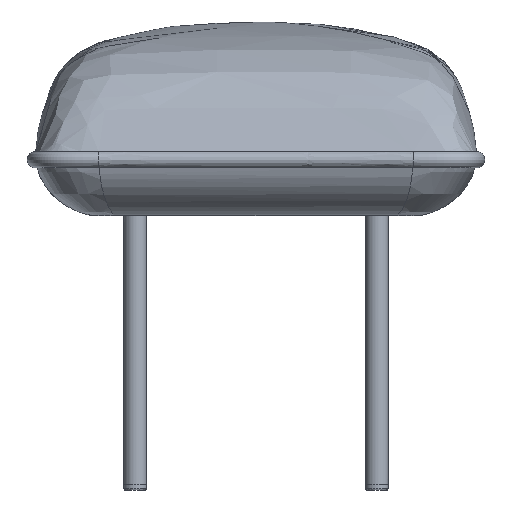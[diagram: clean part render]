
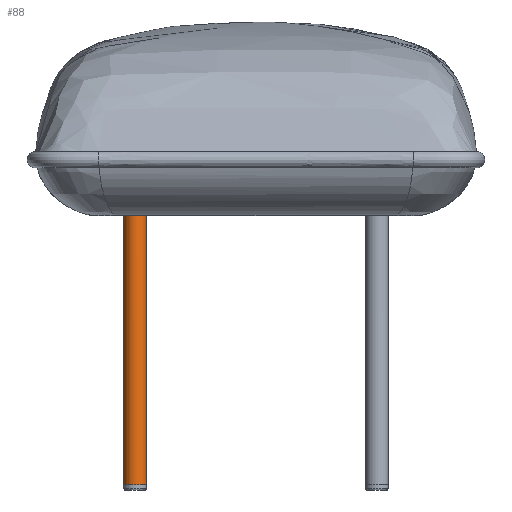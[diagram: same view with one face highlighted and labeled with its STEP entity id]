
A CAD part, left-side view. The second image highlights one B-rep face of the part: STEP entity #88.
In plain terms, the highlighted free-form (B-spline) face has degree [1, 2] with [2, 5] control points.
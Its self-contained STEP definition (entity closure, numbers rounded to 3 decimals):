
#88=ADVANCED_FACE('',(#162),#1970,.T.);
#162=FACE_OUTER_BOUND('',#236,.T.);
#236=EDGE_LOOP('',(#373,#374,#375,#376));
#373=ORIENTED_EDGE('',*,*,#1628,.F.);
#374=ORIENTED_EDGE('',*,*,#1623,.F.);
#375=ORIENTED_EDGE('',*,*,#1627,.F.);
#376=ORIENTED_EDGE('',*,*,#1626,.F.);
#634=B_SPLINE_CURVE_WITH_KNOTS('',1,(#2781,#2782),.UNSPECIFIED.,.F.,.F.,
(2,2),(57.,322.),.UNSPECIFIED.);
#636=B_SPLINE_CURVE_WITH_KNOTS('',1,(#2787,#2788),.UNSPECIFIED.,.F.,.F.,
(2,2),(-322.,-57.),.UNSPECIFIED.);
#637=B_SPLINE_CURVE_WITH_KNOTS('',1,(#2789,#2790),.UNSPECIFIED.,.F.,.F.,
(2,2),(-322.,-57.),.UNSPECIFIED.);
#638=B_SPLINE_CURVE_WITH_KNOTS('',1,(#2791,#2792),.UNSPECIFIED.,.F.,.F.,
(2,2),(-69.115,-34.558),.UNSPECIFIED.);
#639=B_SPLINE_CURVE_WITH_KNOTS('',1,(#2793,#2794),.UNSPECIFIED.,.F.,.F.,
(2,2),(57.,322.),.UNSPECIFIED.);
#640=B_SPLINE_CURVE_WITH_KNOTS('',1,(#2795,#2796),.UNSPECIFIED.,.F.,.F.,
(2,2),(34.558,69.115),.UNSPECIFIED.);
#945=PCURVE('',#2011,#1233);
#948=PCURVE('',#2012,#1236);
#950=PCURVE('',#1969,#1238);
#952=PCURVE('',#1969,#1240);
#953=PCURVE('',#1970,#1241);
#954=PCURVE('',#1970,#1242);
#955=PCURVE('',#1970,#1243);
#956=PCURVE('',#1970,#1244);
#1233=DEFINITIONAL_REPRESENTATION('',(#1788),#12418);
#1236=DEFINITIONAL_REPRESENTATION('',(#1794),#12418);
#1238=DEFINITIONAL_REPRESENTATION('',(#634),#12418);
#1240=DEFINITIONAL_REPRESENTATION('',(#636),#12418);
#1241=DEFINITIONAL_REPRESENTATION('',(#637),#12418);
#1242=DEFINITIONAL_REPRESENTATION('',(#638),#12418);
#1243=DEFINITIONAL_REPRESENTATION('',(#639),#12418);
#1244=DEFINITIONAL_REPRESENTATION('',(#640),#12418);
#1479=SURFACE_CURVE('',#1787,(#945,#954),.PCURVE_S1.);
#1482=SURFACE_CURVE('',#1793,(#948,#956),.PCURVE_S1.);
#1483=SURFACE_CURVE('',#1795,(#950,#955),.PCURVE_S1.);
#1484=SURFACE_CURVE('',#1796,(#952,#953),.PCURVE_S1.);
#1623=EDGE_CURVE('',#1891,#1894,#1479,.T.);
#1626=EDGE_CURVE('',#1893,#1892,#1482,.T.);
#1627=EDGE_CURVE('',#1892,#1891,#1483,.T.);
#1628=EDGE_CURVE('',#1894,#1893,#1484,.T.);
#1787=(
BOUNDED_CURVE()
B_SPLINE_CURVE(2,(#2737,#2738,#2739,#2740,#2741),.UNSPECIFIED.,.F.,.F.)
B_SPLINE_CURVE_WITH_KNOTS((3,2,3),(-69.115,-51.836,
-34.558),.UNSPECIFIED.)
CURVE()
GEOMETRIC_REPRESENTATION_ITEM()
RATIONAL_B_SPLINE_CURVE((1.,0.707,1.,0.707,1.))
REPRESENTATION_ITEM('')
);
#1788=(
BOUNDED_CURVE()
B_SPLINE_CURVE(2,(#2742,#2743,#2744,#2745,#2746),.UNSPECIFIED.,.F.,.F.)
B_SPLINE_CURVE_WITH_KNOTS((3,2,3),(-69.115,-51.836,
-34.558),.UNSPECIFIED.)
CURVE()
GEOMETRIC_REPRESENTATION_ITEM()
RATIONAL_B_SPLINE_CURVE((1.,0.707,1.,0.707,1.))
REPRESENTATION_ITEM('')
);
#1793=(
BOUNDED_CURVE()
B_SPLINE_CURVE(2,(#2767,#2768,#2769,#2770,#2771),.UNSPECIFIED.,.F.,.F.)
B_SPLINE_CURVE_WITH_KNOTS((3,2,3),(34.558,51.836,69.115),
 .UNSPECIFIED.)
CURVE()
GEOMETRIC_REPRESENTATION_ITEM()
RATIONAL_B_SPLINE_CURVE((1.,0.707,1.,0.707,1.))
REPRESENTATION_ITEM('')
);
#1794=(
BOUNDED_CURVE()
B_SPLINE_CURVE(2,(#2772,#2773,#2774,#2775,#2776),.UNSPECIFIED.,.F.,.F.)
B_SPLINE_CURVE_WITH_KNOTS((3,2,3),(34.558,51.836,69.115),
 .UNSPECIFIED.)
CURVE()
GEOMETRIC_REPRESENTATION_ITEM()
RATIONAL_B_SPLINE_CURVE((1.,0.707,1.,0.707,1.))
REPRESENTATION_ITEM('')
);
#1795=(
BOUNDED_CURVE()
B_SPLINE_CURVE(1,(#2779,#2780),.UNSPECIFIED.,.F.,.F.)
B_SPLINE_CURVE_WITH_KNOTS((2,2),(57.,322.),.UNSPECIFIED.)
CURVE()
GEOMETRIC_REPRESENTATION_ITEM()
RATIONAL_B_SPLINE_CURVE((1.,1.))
REPRESENTATION_ITEM('')
);
#1796=(
BOUNDED_CURVE()
B_SPLINE_CURVE(1,(#2785,#2786),.UNSPECIFIED.,.F.,.F.)
B_SPLINE_CURVE_WITH_KNOTS((2,2),(-322.,-57.),.UNSPECIFIED.)
CURVE()
GEOMETRIC_REPRESENTATION_ITEM()
RATIONAL_B_SPLINE_CURVE((1.,1.))
REPRESENTATION_ITEM('')
);
#1891=VERTEX_POINT('',#2733);
#1892=VERTEX_POINT('',#2734);
#1893=VERTEX_POINT('',#2735);
#1894=VERTEX_POINT('',#2736);
#1969=(
BOUNDED_SURFACE()
B_SPLINE_SURFACE(1,2,((#2713,#2714,#2715,#2716,#2717),(#2718,#2719,#2720,
#2721,#2722)),.UNSPECIFIED.,.F.,.F.,.F.)
B_SPLINE_SURFACE_WITH_KNOTS((2,2),(3,2,3),(0.,327.),(0.,17.279,
34.558),.UNSPECIFIED.)
GEOMETRIC_REPRESENTATION_ITEM()
RATIONAL_B_SPLINE_SURFACE(((1.,0.707,1.,0.707,1.),
(1.,0.707,1.,0.707,1.)))
REPRESENTATION_ITEM('')
SURFACE()
);
#1970=(
BOUNDED_SURFACE()
B_SPLINE_SURFACE(1,2,((#2723,#2724,#2725,#2726,#2727),(#2728,#2729,#2730,
#2731,#2732)),.UNSPECIFIED.,.F.,.F.,.F.)
B_SPLINE_SURFACE_WITH_KNOTS((2,2),(3,2,3),(0.,327.),(34.558,51.836,
69.115),.UNSPECIFIED.)
GEOMETRIC_REPRESENTATION_ITEM()
RATIONAL_B_SPLINE_SURFACE(((1.,0.707,1.,0.707,1.),
(1.,0.707,1.,0.707,1.)))
REPRESENTATION_ITEM('')
SURFACE()
);
#2011=B_SPLINE_SURFACE_WITH_KNOTS('',1,1,((#2705,#2706),(#2707,#2708)),
 .UNSPECIFIED.,.F.,.F.,.F.,(2,2),(2,2),(-0.22,22.22),(-11.22,
11.22),.UNSPECIFIED.);
#2012=B_SPLINE_SURFACE_WITH_KNOTS('',1,1,((#2709,#2710),(#2711,#2712)),
 .UNSPECIFIED.,.F.,.F.,.F.,(2,2),(2,2),(-22.22,0.22),(-11.22,
11.22),.UNSPECIFIED.);
#2705=CARTESIAN_POINT('',(-505.22,107.78,5.));
#2706=CARTESIAN_POINT('',(-482.78,107.78,5.));
#2707=CARTESIAN_POINT('',(-505.22,130.22,5.));
#2708=CARTESIAN_POINT('',(-482.78,130.22,5.));
#2709=CARTESIAN_POINT('',(-505.22,130.22,270.));
#2710=CARTESIAN_POINT('',(-482.78,130.22,270.));
#2711=CARTESIAN_POINT('',(-505.22,107.78,270.));
#2712=CARTESIAN_POINT('',(-482.78,107.78,270.));
#2713=CARTESIAN_POINT('',(-494.,108.,327.));
#2714=CARTESIAN_POINT('',(-483.,108.,327.));
#2715=CARTESIAN_POINT('',(-483.,119.,327.));
#2716=CARTESIAN_POINT('',(-483.,130.,327.));
#2717=CARTESIAN_POINT('',(-494.,130.,327.));
#2718=CARTESIAN_POINT('',(-494.,108.,0.));
#2719=CARTESIAN_POINT('',(-483.,108.,0.));
#2720=CARTESIAN_POINT('',(-483.,119.,0.));
#2721=CARTESIAN_POINT('',(-483.,130.,0.));
#2722=CARTESIAN_POINT('',(-494.,130.,0.));
#2723=CARTESIAN_POINT('',(-494.,130.,327.));
#2724=CARTESIAN_POINT('',(-505.,130.,327.));
#2725=CARTESIAN_POINT('',(-505.,119.,327.));
#2726=CARTESIAN_POINT('',(-505.,108.,327.));
#2727=CARTESIAN_POINT('',(-494.,108.,327.));
#2728=CARTESIAN_POINT('',(-494.,130.,0.));
#2729=CARTESIAN_POINT('',(-505.,130.,0.));
#2730=CARTESIAN_POINT('',(-505.,119.,0.));
#2731=CARTESIAN_POINT('',(-505.,108.,0.));
#2732=CARTESIAN_POINT('',(-494.,108.,0.));
#2733=CARTESIAN_POINT('',(-494.,108.,5.));
#2734=CARTESIAN_POINT('',(-494.,108.,270.));
#2735=CARTESIAN_POINT('',(-494.,130.,270.));
#2736=CARTESIAN_POINT('',(-494.,130.,5.));
#2737=CARTESIAN_POINT('',(-494.,108.,5.));
#2738=CARTESIAN_POINT('',(-505.,108.,5.));
#2739=CARTESIAN_POINT('',(-505.,119.,5.));
#2740=CARTESIAN_POINT('',(-505.,130.,5.));
#2741=CARTESIAN_POINT('',(-494.,130.,5.));
#2742=CARTESIAN_POINT('',(0.,0.));
#2743=CARTESIAN_POINT('',(0.,-11.));
#2744=CARTESIAN_POINT('',(11.,-11.));
#2745=CARTESIAN_POINT('',(22.,-11.));
#2746=CARTESIAN_POINT('',(22.,0.));
#2767=CARTESIAN_POINT('',(-494.,130.,270.));
#2768=CARTESIAN_POINT('',(-505.,130.,270.));
#2769=CARTESIAN_POINT('',(-505.,119.,270.));
#2770=CARTESIAN_POINT('',(-505.,108.,270.));
#2771=CARTESIAN_POINT('',(-494.,108.,270.));
#2772=CARTESIAN_POINT('',(-22.,0.));
#2773=CARTESIAN_POINT('',(-22.,-11.));
#2774=CARTESIAN_POINT('',(-11.,-11.));
#2775=CARTESIAN_POINT('',(0.,-11.));
#2776=CARTESIAN_POINT('',(0.,0.));
#2779=CARTESIAN_POINT('',(-494.,108.,270.));
#2780=CARTESIAN_POINT('',(-494.,108.,5.));
#2781=CARTESIAN_POINT('',(57.,0.));
#2782=CARTESIAN_POINT('',(322.,0.));
#2785=CARTESIAN_POINT('',(-494.,130.,5.));
#2786=CARTESIAN_POINT('',(-494.,130.,270.));
#2787=CARTESIAN_POINT('',(322.,34.558));
#2788=CARTESIAN_POINT('',(57.,34.558));
#2789=CARTESIAN_POINT('',(322.,34.558));
#2790=CARTESIAN_POINT('',(57.,34.558));
#2791=CARTESIAN_POINT('',(322.,69.115));
#2792=CARTESIAN_POINT('',(322.,34.558));
#2793=CARTESIAN_POINT('',(57.,69.115));
#2794=CARTESIAN_POINT('',(322.,69.115));
#2795=CARTESIAN_POINT('',(57.,34.558));
#2796=CARTESIAN_POINT('',(57.,69.115));
#12418=(
GEOMETRIC_REPRESENTATION_CONTEXT(2)
PARAMETRIC_REPRESENTATION_CONTEXT()
REPRESENTATION_CONTEXT('pspace','')
);
